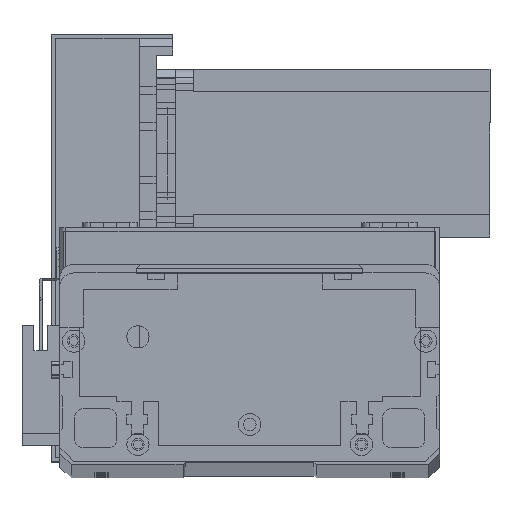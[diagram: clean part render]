
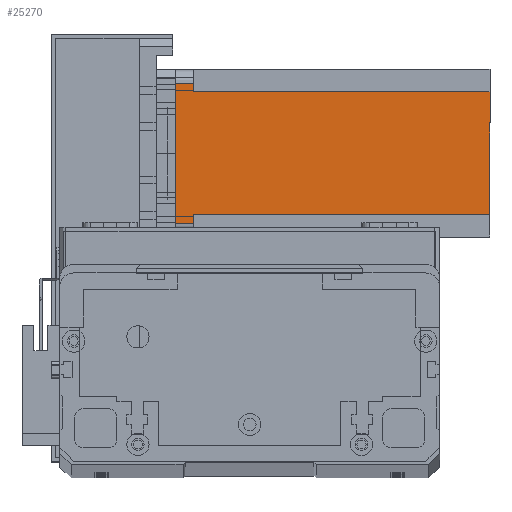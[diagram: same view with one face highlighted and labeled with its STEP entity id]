
A CAD part, top view. The second image highlights one B-rep face of the part: STEP entity #25270.
In plain terms, the highlighted planar face has unit normal (0, 0, 1) as drawn and (0, -1, 0) by its records, which use the part's own axes.
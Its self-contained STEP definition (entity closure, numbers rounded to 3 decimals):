
#40 = VECTOR ( 'NONE', #23264, 1000. ) ;
#324 = ORIENTED_EDGE ( 'NONE', *, *, #8720, .T. ) ;
#937 = LINE ( 'NONE', #5780, #19519 ) ;
#1608 = ORIENTED_EDGE ( 'NONE', *, *, #9275, .T. ) ;
#1859 = LINE ( 'NONE', #5538, #21859 ) ;
#2013 = CARTESIAN_POINT ( 'NONE',  ( 0., 0., 0. ) ) ;
#2170 = CARTESIAN_POINT ( 'NONE',  ( 55., 0., 0. ) ) ;
#2494 = ORIENTED_EDGE ( 'NONE', *, *, #19498, .F. ) ;
#3240 = ORIENTED_EDGE ( 'NONE', *, *, #10146, .T. ) ;
#3723 = DIRECTION ( 'NONE',  ( 0., 0., -1. ) ) ;
#3805 = VECTOR ( 'NONE', #13821, 1000. ) ;
#4122 = ORIENTED_EDGE ( 'NONE', *, *, #10938, .F. ) ;
#4345 = VECTOR ( 'NONE', #4425, 1000. ) ;
#4425 = DIRECTION ( 'NONE',  ( 1., 0., 0. ) ) ;
#4514 = CARTESIAN_POINT ( 'NONE',  ( 8., 0., -6.5 ) ) ;
#4518 = VERTEX_POINT ( 'NONE', #16661 ) ;
#5104 = ORIENTED_EDGE ( 'NONE', *, *, #11586, .F. ) ;
#5392 = LINE ( 'NONE', #9587, #12720 ) ;
#5538 = CARTESIAN_POINT ( 'NONE',  ( 52., 0., -112.5 ) ) ;
#5780 = CARTESIAN_POINT ( 'NONE',  ( 5., 0., -112.5 ) ) ;
#5823 = DIRECTION ( 'NONE',  ( 0., 0., -1. ) ) ;
#6202 = ORIENTED_EDGE ( 'NONE', *, *, #12119, .T. ) ;
#6237 = DIRECTION ( 'NONE',  ( 0., 0., -1. ) ) ;
#6260 = FACE_OUTER_BOUND ( 'NONE', #27969, .T. ) ;
#6654 = VERTEX_POINT ( 'NONE', #10184 ) ;
#7252 = ORIENTED_EDGE ( 'NONE', *, *, #13216, .F. ) ;
#8720 = EDGE_CURVE ( 'NONE', #17890, #26328, #30589, .T. ) ;
#9275 = EDGE_CURVE ( 'NONE', #26328, #29668, #10935, .T. ) ;
#9587 = CARTESIAN_POINT ( 'NONE',  ( 8., 0., -6.5 ) ) ;
#10146 = EDGE_CURVE ( 'NONE', #18066, #4518, #937, .T. ) ;
#10184 = CARTESIAN_POINT ( 'NONE',  ( 52., 0., -112.5 ) ) ;
#10825 = DIRECTION ( 'NONE',  ( -1., 0., 0. ) ) ;
#10935 = LINE ( 'NONE', #19573, #11689 ) ;
#10938 = EDGE_CURVE ( 'NONE', #22682, #4518, #5392, .T. ) ;
#11586 = EDGE_CURVE ( 'NONE', #15625, #22682, #13068, .T. ) ;
#11689 = VECTOR ( 'NONE', #19763, 1000. ) ;
#12119 = EDGE_CURVE ( 'NONE', #15625, #6654, #23794, .T. ) ;
#12720 = VECTOR ( 'NONE', #10825, 1000. ) ;
#13068 = LINE ( 'NONE', #23237, #40 ) ;
#13216 = EDGE_CURVE ( 'NONE', #17890, #6654, #1859, .T. ) ;
#13821 = DIRECTION ( 'NONE',  ( 1., 0., 0. ) ) ;
#13935 = CARTESIAN_POINT ( 'NONE',  ( 0., 0., -112.5 ) ) ;
#15625 = VERTEX_POINT ( 'NONE', #22097 ) ;
#16661 = CARTESIAN_POINT ( 'NONE',  ( 5., 0., -6.5 ) ) ;
#17620 = CARTESIAN_POINT ( 'NONE',  ( 5., 0., 0. ) ) ;
#17890 = VERTEX_POINT ( 'NONE', #28535 ) ;
#18066 = VERTEX_POINT ( 'NONE', #17620 ) ;
#19498 = EDGE_CURVE ( 'NONE', #18066, #29668, #22848, .T. ) ;
#19519 = VECTOR ( 'NONE', #5823, 1000. ) ;
#19573 = CARTESIAN_POINT ( 'NONE',  ( 55., 0., -112.5 ) ) ;
#19763 = DIRECTION ( 'NONE',  ( 0., 0., 1. ) ) ;
#20702 = DIRECTION ( 'NONE',  ( 0., -1., 0. ) ) ;
#21859 = VECTOR ( 'NONE', #3723, 1000. ) ;
#22097 = CARTESIAN_POINT ( 'NONE',  ( 8., 0., -112.5 ) ) ;
#22682 = VERTEX_POINT ( 'NONE', #4514 ) ;
#22829 = CARTESIAN_POINT ( 'NONE',  ( 55., 0., -6.5 ) ) ;
#22848 = LINE ( 'NONE', #2013, #4345 ) ;
#23237 = CARTESIAN_POINT ( 'NONE',  ( 8., 0., -112.5 ) ) ;
#23264 = DIRECTION ( 'NONE',  ( 0., 0., 1. ) ) ;
#23794 = LINE ( 'NONE', #13935, #3805 ) ;
#24371 = VECTOR ( 'NONE', #28003, 1000. ) ;
#25270 = ADVANCED_FACE ( 'NONE', ( #6260 ), #25341, .T. ) ;
#25341 = PLANE ( 'NONE',  #30511 ) ;
#26328 = VERTEX_POINT ( 'NONE', #22829 ) ;
#27700 = CARTESIAN_POINT ( 'NONE',  ( 0., 0., -112.5 ) ) ;
#27969 = EDGE_LOOP ( 'NONE', ( #324, #1608, #2494, #3240, #4122, #5104, #6202, #7252 ) ) ;
#28003 = DIRECTION ( 'NONE',  ( 1., 0., 0. ) ) ;
#28032 = CARTESIAN_POINT ( 'NONE',  ( 52., 0., -6.5 ) ) ;
#28535 = CARTESIAN_POINT ( 'NONE',  ( 52., 0., -6.5 ) ) ;
#29668 = VERTEX_POINT ( 'NONE', #2170 ) ;
#30511 = AXIS2_PLACEMENT_3D ( 'NONE', #27700, #20702, #6237 ) ;
#30589 = LINE ( 'NONE', #28032, #24371 ) ;
